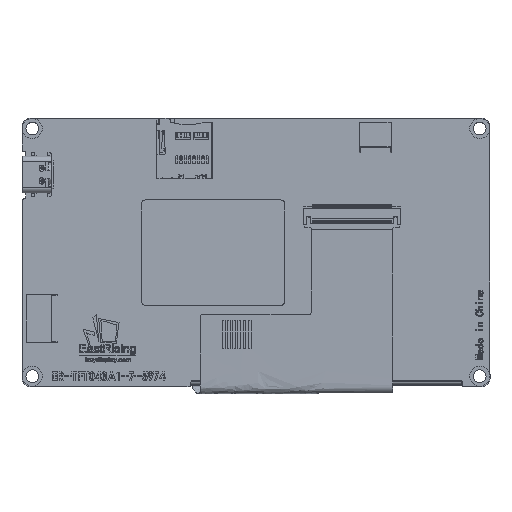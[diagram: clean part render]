
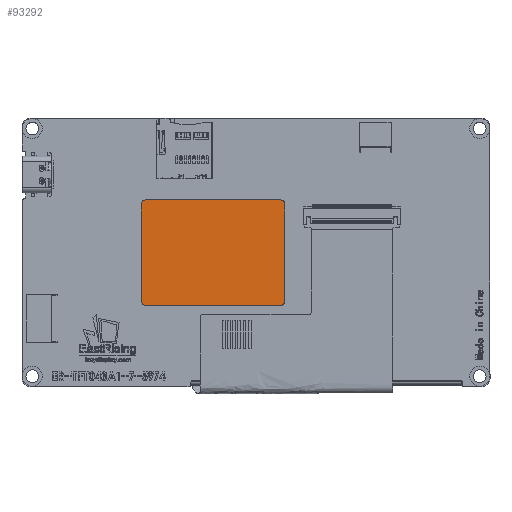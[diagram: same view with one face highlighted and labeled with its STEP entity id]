
A CAD part, top view. The second image highlights one B-rep face of the part: STEP entity #93292.
In plain terms, the highlighted planar face has unit normal (0, 0, 1) as drawn and (0, 0, -1) by its records, which use the part's own axes.
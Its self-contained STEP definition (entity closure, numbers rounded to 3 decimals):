
#7091 = ORIENTED_EDGE ( 'NONE', *, *, #135955, .T. ) ;
#8032 = VERTEX_POINT ( 'NONE', #64162 ) ;
#9940 = LINE ( 'NONE', #102904, #117376 ) ;
#13084 = VERTEX_POINT ( 'NONE', #154631 ) ;
#13492 = EDGE_CURVE ( 'NONE', #70125, #149553, #9940, .T. ) ;
#18596 = CARTESIAN_POINT ( 'NONE',  ( -6.2, -12.3, -3.2 ) ) ;
#18617 = DIRECTION ( 'NONE',  ( 0., 1., 0. ) ) ;
#21062 = EDGE_CURVE ( 'NONE', #143618, #107403, #91869, .T. ) ;
#21877 = DIRECTION ( 'NONE',  ( -1., 0., 0. ) ) ;
#25322 = VECTOR ( 'NONE', #127358, 1000. ) ;
#25554 = EDGE_CURVE ( 'NONE', #149553, #92271, #54197, .T. ) ;
#28176 = CIRCLE ( 'NONE', #138943, 1. ) ;
#34388 = CIRCLE ( 'NONE', #54523, 1. ) ;
#36480 = VECTOR ( 'NONE', #96025, 1000. ) ;
#42795 = DIRECTION ( 'NONE',  ( -1., 0., 0. ) ) ;
#44245 = EDGE_LOOP ( 'NONE', ( #44400, #94394, #7091, #117045, #133405, #90752, #46925, #118545 ) ) ;
#44400 = ORIENTED_EDGE ( 'NONE', *, *, #13492, .T. ) ;
#44515 = EDGE_CURVE ( 'NONE', #46351, #70125, #34388, .T. ) ;
#46351 = VERTEX_POINT ( 'NONE', #98753 ) ;
#46925 = ORIENTED_EDGE ( 'NONE', *, *, #73239, .T. ) ;
#47954 = CARTESIAN_POINT ( 'NONE',  ( 28.75, -13.3, -3.2 ) ) ;
#50108 = CARTESIAN_POINT ( 'NONE',  ( 28.75, -12.3, -3.2 ) ) ;
#53000 = PLANE ( 'NONE',  #154881 ) ;
#54197 = CIRCLE ( 'NONE', #144764, 1. ) ;
#54257 = CARTESIAN_POINT ( 'NONE',  ( -7.2, 12.15, -3.2 ) ) ;
#54523 = AXIS2_PLACEMENT_3D ( 'NONE', #18596, #126511, #54792 ) ;
#54792 = DIRECTION ( 'NONE',  ( -1., 0., 0. ) ) ;
#55780 = DIRECTION ( 'NONE',  ( 0., 0., -1. ) ) ;
#56941 = LINE ( 'NONE', #81277, #152414 ) ;
#59326 = CARTESIAN_POINT ( 'NONE',  ( -6.2, 13.15, -3.2 ) ) ;
#64162 = CARTESIAN_POINT ( 'NONE',  ( 27.75, -13.3, -3.2 ) ) ;
#69634 = DIRECTION ( 'NONE',  ( -1., 0., 0. ) ) ;
#70125 = VERTEX_POINT ( 'NONE', #122589 ) ;
#73239 = EDGE_CURVE ( 'NONE', #8032, #46351, #98399, .T. ) ;
#77289 = EDGE_CURVE ( 'NONE', #13084, #143618, #28176, .T. ) ;
#80155 = CARTESIAN_POINT ( 'NONE',  ( -6.2, 12.15, -3.2 ) ) ;
#80501 = DIRECTION ( 'NONE',  ( 1., 0., 0. ) ) ;
#81277 = CARTESIAN_POINT ( 'NONE',  ( 28.75, 13.15, -3.2 ) ) ;
#89215 = CARTESIAN_POINT ( 'NONE',  ( 0., 0., -3.2 ) ) ;
#90752 = ORIENTED_EDGE ( 'NONE', *, *, #115840, .T. ) ;
#91869 = LINE ( 'NONE', #130409, #25322 ) ;
#92271 = VERTEX_POINT ( 'NONE', #59326 ) ;
#93292 = ADVANCED_FACE ( 'NONE', ( #101915 ), #53000, .T. ) ;
#94394 = ORIENTED_EDGE ( 'NONE', *, *, #25554, .T. ) ;
#96025 = DIRECTION ( 'NONE',  ( -1., 0., 0. ) ) ;
#97314 = CIRCLE ( 'NONE', #152702, 1. ) ;
#98399 = LINE ( 'NONE', #47954, #36480 ) ;
#98753 = CARTESIAN_POINT ( 'NONE',  ( -6.2, -13.3, -3.2 ) ) ;
#101188 = CARTESIAN_POINT ( 'NONE',  ( 27.75, 12.15, -3.2 ) ) ;
#101915 = FACE_OUTER_BOUND ( 'NONE', #44245, .T. ) ;
#102904 = CARTESIAN_POINT ( 'NONE',  ( -7.2, 13.15, -3.2 ) ) ;
#105098 = CARTESIAN_POINT ( 'NONE',  ( 27.75, -12.3, -3.2 ) ) ;
#107403 = VERTEX_POINT ( 'NONE', #50108 ) ;
#115840 = EDGE_CURVE ( 'NONE', #107403, #8032, #97314, .T. ) ;
#117045 = ORIENTED_EDGE ( 'NONE', *, *, #77289, .T. ) ;
#117376 = VECTOR ( 'NONE', #18617, 1000. ) ;
#118545 = ORIENTED_EDGE ( 'NONE', *, *, #44515, .T. ) ;
#122589 = CARTESIAN_POINT ( 'NONE',  ( -7.2, -12.3, -3.2 ) ) ;
#126511 = DIRECTION ( 'NONE',  ( 0., 0., -1. ) ) ;
#127358 = DIRECTION ( 'NONE',  ( 0., -1., 0. ) ) ;
#130409 = CARTESIAN_POINT ( 'NONE',  ( 28.75, 13.15, -3.2 ) ) ;
#133405 = ORIENTED_EDGE ( 'NONE', *, *, #21062, .T. ) ;
#135955 = EDGE_CURVE ( 'NONE', #92271, #13084, #56941, .T. ) ;
#137339 = DIRECTION ( 'NONE',  ( 0., 0., -1. ) ) ;
#138050 = DIRECTION ( 'NONE',  ( -1., 0., 0. ) ) ;
#138851 = DIRECTION ( 'NONE',  ( 0., 0., -1. ) ) ;
#138943 = AXIS2_PLACEMENT_3D ( 'NONE', #101188, #137339, #42795 ) ;
#143618 = VERTEX_POINT ( 'NONE', #154448 ) ;
#144764 = AXIS2_PLACEMENT_3D ( 'NONE', #80155, #55780, #21877 ) ;
#149553 = VERTEX_POINT ( 'NONE', #54257 ) ;
#152414 = VECTOR ( 'NONE', #80501, 1000. ) ;
#152702 = AXIS2_PLACEMENT_3D ( 'NONE', #105098, #153946, #69634 ) ;
#153946 = DIRECTION ( 'NONE',  ( 0., 0., -1. ) ) ;
#154448 = CARTESIAN_POINT ( 'NONE',  ( 28.75, 12.15, -3.2 ) ) ;
#154631 = CARTESIAN_POINT ( 'NONE',  ( 27.75, 13.15, -3.2 ) ) ;
#154881 = AXIS2_PLACEMENT_3D ( 'NONE', #89215, #138851, #138050 ) ;
